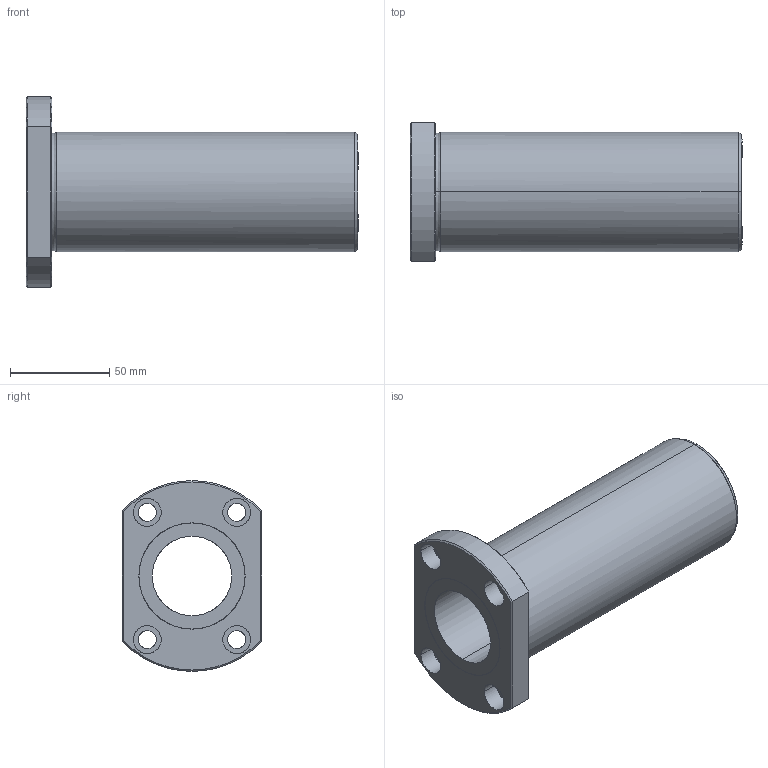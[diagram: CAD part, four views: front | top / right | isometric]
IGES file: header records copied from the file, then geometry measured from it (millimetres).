
Global section: file name: No Iges File Name specified; native system: AutoDesk Inventor R11.0; preprocessor: AutoDesk Inventor Iges Exporter R11.0; author: No Author specified; organization: No Organization specified; date: 20170921.142037; units: millimetre
Bounding box: 167 x 70 x 96 mm (x, y, z)
Surface area: 64593.2 mm2 (no closed solid volume)
Topology: 0 solids, 0 shells, 50 faces, 338 edges, 338 vertices
Faces by surface type: bspline 50
